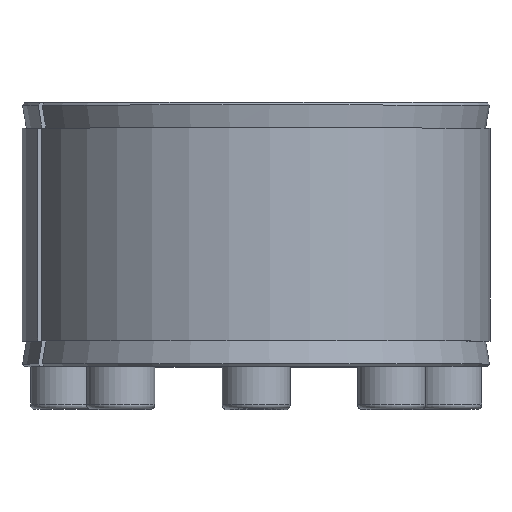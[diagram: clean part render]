
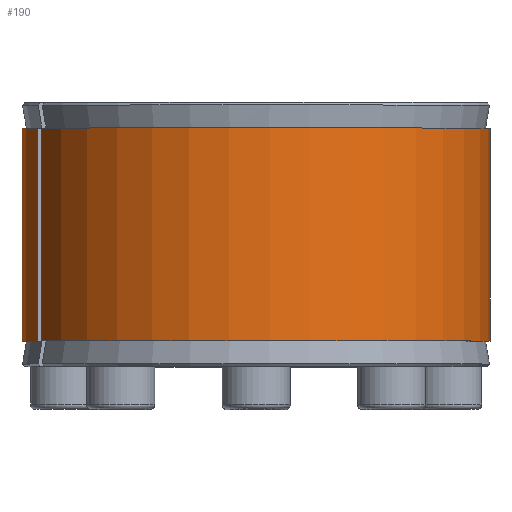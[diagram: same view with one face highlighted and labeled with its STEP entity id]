
A CAD part, top view. The second image highlights one B-rep face of the part: STEP entity #190.
In plain terms, the highlighted cylindrical face has radius 55 mm (diameter 110 mm), a partial arc.
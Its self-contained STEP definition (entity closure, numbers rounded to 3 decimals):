
#190 = ADVANCED_FACE( '', ( #425 ), #426, .T. );
#425 = FACE_OUTER_BOUND( '', #685, .T. );
#426 = CYLINDRICAL_SURFACE( '', #686, 55. );
#685 = EDGE_LOOP( '', ( #1242, #1243, #1244, #1245 ) );
#686 = AXIS2_PLACEMENT_3D( '', #1246, #1247, #1248 );
#1242 = ORIENTED_EDGE( '', *, *, #1577, .T. );
#1243 = ORIENTED_EDGE( '', *, *, #1594, .T. );
#1244 = ORIENTED_EDGE( '', *, *, #1580, .F. );
#1245 = ORIENTED_EDGE( '', *, *, #1539, .T. );
#1246 = CARTESIAN_POINT( '', ( 0., -60., 0. ) );
#1247 = DIRECTION( '', ( 0., 1., 0. ) );
#1248 = DIRECTION( '', ( 0., 0., -1. ) );
#1539 = EDGE_CURVE( '', #1906, #1904, #1907, .F. );
#1577 = EDGE_CURVE( '', #1904, #1960, #1962, .T. );
#1580 = EDGE_CURVE( '', #1906, #1965, #1966, .T. );
#1594 = EDGE_CURVE( '', #1960, #1965, #1981, .T. );
#1904 = VERTEX_POINT( '', #2481 );
#1906 = VERTEX_POINT( '', #2484 );
#1907 = LINE( '', #2485, #2486 );
#1960 = VERTEX_POINT( '', #2580 );
#1962 = CIRCLE( '', #2583, 55. );
#1965 = VERTEX_POINT( '', #2586 );
#1966 = CIRCLE( '', #2587, 55. );
#1981 = LINE( '', #2638, #2639 );
#2481 = CARTESIAN_POINT( '', ( -51.279, 56., 19.887 ) );
#2484 = CARTESIAN_POINT( '', ( -51.279, 6., 19.887 ) );
#2485 = CARTESIAN_POINT( '', ( -51.279, -60., 19.887 ) );
#2486 = VECTOR( '', #2979, 1000. );
#2580 = CARTESIAN_POINT( '', ( -50.322, 56., 22.197 ) );
#2583 = AXIS2_PLACEMENT_3D( '', #3027, #3028, #3029 );
#2586 = CARTESIAN_POINT( '', ( -50.322, 6., 22.197 ) );
#2587 = AXIS2_PLACEMENT_3D( '', #3030, #3031, #3032 );
#2638 = CARTESIAN_POINT( '', ( -50.322, -60., 22.197 ) );
#2639 = VECTOR( '', #3040, 1000. );
#2979 = DIRECTION( '', ( 0., -1., 0. ) );
#3027 = CARTESIAN_POINT( '', ( 0., 56., 0. ) );
#3028 = DIRECTION( '', ( 0., -1., 0. ) );
#3029 = DIRECTION( '', ( 0., 0., -1. ) );
#3030 = CARTESIAN_POINT( '', ( 0., 6., 0. ) );
#3031 = DIRECTION( '', ( 0., -1., 0. ) );
#3032 = DIRECTION( '', ( 0., 0., -1. ) );
#3040 = DIRECTION( '', ( 0., -1., 0. ) );
